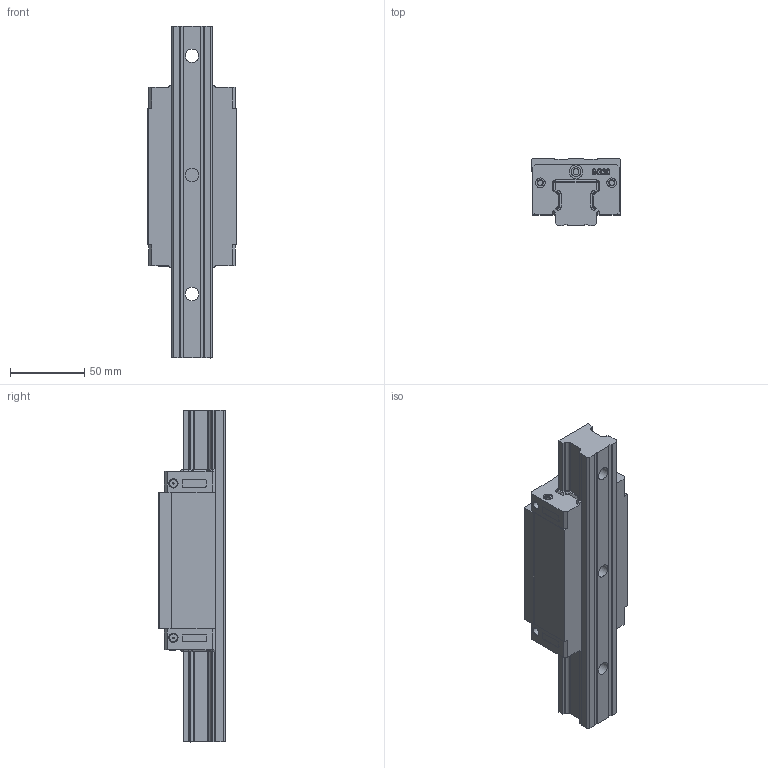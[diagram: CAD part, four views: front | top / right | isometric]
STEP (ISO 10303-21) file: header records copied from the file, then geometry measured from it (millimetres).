
FILE_DESCRIPTION(/* description */ (''),/* implementation_level */ '2;1');
FILE_NAME(/* name */ 'SGH30BL.stp',/* time_stamp */ '2021-05-27T16:19:30+08:00',/* author */ (''),/* organization */ (''),/* preprocessor_version */ 'ST-DEVELOPER v15',/* originating_system */ 'SIEMENS PLM Software NX 8.5',/* authorisation */ '');
FILE_SCHEMA (('CONFIG_CONTROL_DESIGN'));
Length unit declared in the file: millimetre
Products named in the file (1): SGH30BL
Bounding box: 60 x 45 x 223 mm (x, y, z)
Volume: 342362.3 mm3; surface area: 66369.2 mm2
Topology: 2 solids, 2 shells, 475 faces, 1288 edges, 864 vertices
Faces by surface type: plane 203, extrusion 122, cylinder 103, cone 47
Full cylindrical faces by diameter (mm): 1 x4, 3.5 x4, 4 x2, 4.1 x4, 5.2 x4, 6.5 x6, 6.8 x4, 9 x3, 9.1 x2, 14 x3
Entity records: 16695 total; most frequent: CARTESIAN_POINT 5259, ORIENTED_EDGE 2428, DIRECTION 2037, EDGE_CURVE 1214, VERTEX_POINT 837, VECTOR 751, AXIS2_PLACEMENT_3D 643, LINE 629
